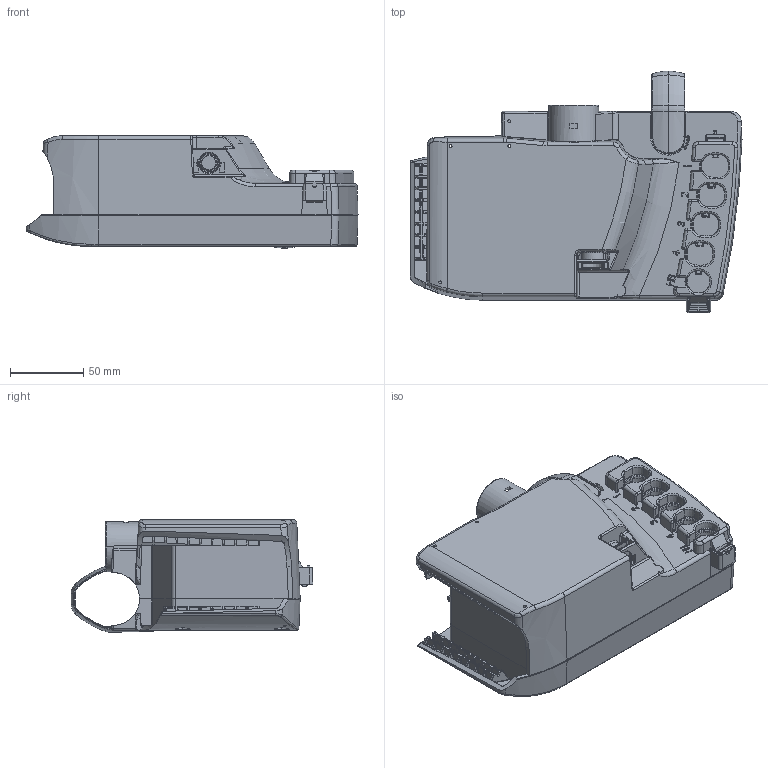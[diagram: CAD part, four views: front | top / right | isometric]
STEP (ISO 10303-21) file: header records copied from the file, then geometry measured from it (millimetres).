
FILE_DESCRIPTION((''),'2;1');
FILE_NAME('9271238','2013-12-18T',('ti'),(''),'PRO/ENGINEER BY PARAMETRIC TECHNOLOGY CORPORATION, 2013150','PRO/ENGINEER BY PARAMETRIC TECHNOLOGY CORPORATION, 2013150','');
FILE_SCHEMA(('CONFIG_CONTROL_DESIGN'));
Products named in the file (1): 9271238
Bounding box: 226.37 x 164.9 x 76.74 mm (x, y, z)
Volume: 1337515.1 mm3; surface area: 142451.6 mm2
Topology: 1 solids, 1 shells, 2598 faces, 6814 edges, 4139 vertices
Faces by surface type: plane 829, cylinder 764, torus 309, cone 296, bspline 289, sphere 111
Entity records: 98055 total; most frequent: CARTESIAN_POINT 36862, ORIENTED_EDGE 13412, DIRECTION 12265, EDGE_CURVE 6706, AXIS2_PLACEMENT_3D 4674, VERTEX_POINT 4139, VECTOR 2917, LINE 2917
